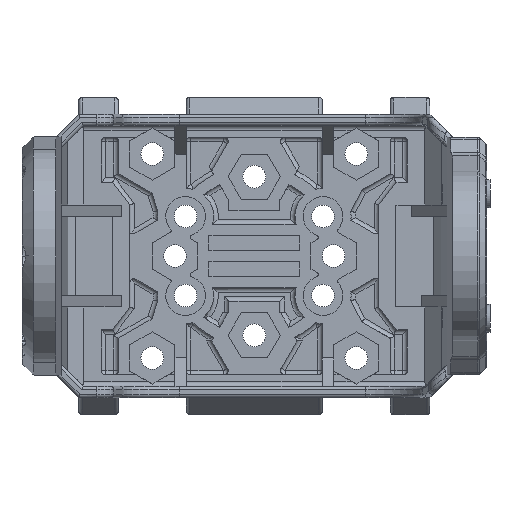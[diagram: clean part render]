
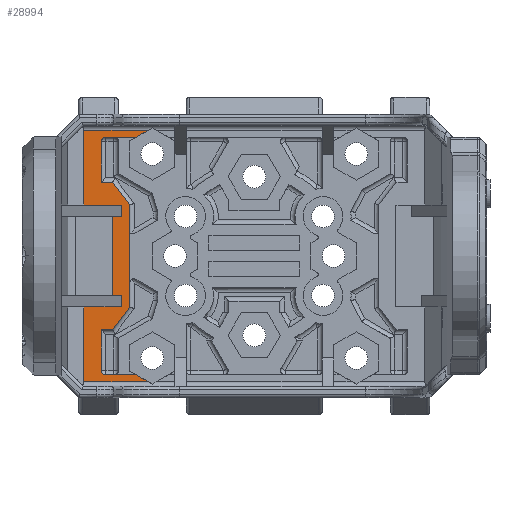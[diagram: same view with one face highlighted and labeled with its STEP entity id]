
A CAD part, front view. The second image highlights one B-rep face of the part: STEP entity #28994.
In plain terms, the highlighted planar face has unit normal (0, -1, 0).
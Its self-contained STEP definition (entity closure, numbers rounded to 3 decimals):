
#1414=DIRECTION('',(-1.,0.,0.));
#1415=VECTOR('',#1414,3.3);
#1416=CARTESIAN_POINT('',(-11.742,65.,-4.5));
#1417=LINE('',#1416,#1415);
#1478=DIRECTION('',(1.,0.,0.));
#1479=VECTOR('',#1478,3.3);
#1480=CARTESIAN_POINT('',(-15.042,65.,4.5));
#1481=LINE('',#1480,#1479);
#1506=CARTESIAN_POINT('',(-15.042,65.,11.1));
#2410=DIRECTION('',(1.,0.,0.));
#2411=VECTOR('',#2410,2.698);
#2412=CARTESIAN_POINT('',(-13.1,65.,10.5));
#2413=LINE('',#2412,#2411);
#2654=DIRECTION('',(-1.,0.,0.));
#2655=VECTOR('',#2654,2.698);
#2656=CARTESIAN_POINT('',(-10.402,65.,-10.5));
#2657=LINE('',#2656,#2655);
#7003=CARTESIAN_POINT('',(-15.042,65.,-11.1));
#7117=DIRECTION('',(0.,0.,-1.));
#7118=VECTOR('',#7117,3.6);
#7119=CARTESIAN_POINT('',(-13.5,65.,-6.5));
#7120=LINE('',#7119,#7118);
#7121=DIRECTION('',(-0.866,0.,0.5));
#7122=VECTOR('',#7121,1.2);
#7123=CARTESIAN_POINT('',(-9.363,65.,-11.1));
#7124=LINE('',#7123,#7122);
#7125=DIRECTION('',(-1.,0.,0.));
#7126=VECTOR('',#7125,5.68);
#7127=CARTESIAN_POINT('',(-9.363,65.,-11.1));
#7128=LINE('',#7127,#7126);
#7129=DIRECTION('',(0.,0.,1.));
#7130=VECTOR('',#7129,6.6);
#7131=CARTESIAN_POINT('',(-15.042,65.,-11.1));
#7132=LINE('',#7131,#7130);
#7133=DIRECTION('',(0.,0.,1.));
#7134=VECTOR('',#7133,1.);
#7135=CARTESIAN_POINT('',(-11.742,65.,-4.5));
#7136=LINE('',#7135,#7134);
#7137=DIRECTION('',(1.,0.,0.));
#7138=VECTOR('',#7137,0.758);
#7139=CARTESIAN_POINT('',(-12.5,65.,-3.5));
#7140=LINE('',#7139,#7138);
#7141=DIRECTION('',(0.,0.,1.));
#7142=VECTOR('',#7141,7.);
#7143=CARTESIAN_POINT('',(-12.5,65.,-3.5));
#7144=LINE('',#7143,#7142);
#7145=DIRECTION('',(1.,0.,0.));
#7146=VECTOR('',#7145,0.758);
#7147=CARTESIAN_POINT('',(-12.5,65.,3.5));
#7148=LINE('',#7147,#7146);
#7149=DIRECTION('',(0.,0.,-1.));
#7150=VECTOR('',#7149,1.);
#7151=CARTESIAN_POINT('',(-11.742,65.,4.5));
#7152=LINE('',#7151,#7150);
#7153=DIRECTION('',(0.,0.,1.));
#7154=VECTOR('',#7153,6.6);
#7155=CARTESIAN_POINT('',(-15.042,65.,4.5));
#7156=LINE('',#7155,#7154);
#7157=DIRECTION('',(1.,0.,0.));
#7158=VECTOR('',#7157,5.68);
#7159=CARTESIAN_POINT('',(-15.042,65.,11.1));
#7160=LINE('',#7159,#7158);
#7161=DIRECTION('',(-0.866,0.,-0.5));
#7162=VECTOR('',#7161,1.2);
#7163=CARTESIAN_POINT('',(-9.363,65.,11.1));
#7164=LINE('',#7163,#7162);
#7165=DIRECTION('',(0.,0.,1.));
#7166=VECTOR('',#7165,3.6);
#7167=CARTESIAN_POINT('',(-13.5,65.,6.5));
#7168=LINE('',#7167,#7166);
#7169=DIRECTION('',(-1.,0.,0.));
#7170=VECTOR('',#7169,1.);
#7171=CARTESIAN_POINT('',(-12.5,65.,6.5));
#7172=LINE('',#7171,#7170);
#7173=DIRECTION('',(-0.6,0.,0.8));
#7174=VECTOR('',#7173,2.5);
#7175=CARTESIAN_POINT('',(-11.,65.,4.5));
#7176=LINE('',#7175,#7174);
#7177=DIRECTION('',(-0.6,0.,-0.8));
#7178=VECTOR('',#7177,2.5);
#7179=CARTESIAN_POINT('',(-11.,65.,-4.5));
#7180=LINE('',#7179,#7178);
#7181=DIRECTION('',(-1.,0.,0.));
#7182=VECTOR('',#7181,1.);
#7183=CARTESIAN_POINT('',(-12.5,65.,-6.5));
#7184=LINE('',#7183,#7182);
#7814=CARTESIAN_POINT('',(-13.1,65.,10.1));
#7815=DIRECTION('',(0.,1.,0.));
#7816=DIRECTION('',(-1.,0.,0.));
#7817=AXIS2_PLACEMENT_3D('',#7814,#7815,#7816);
#7955=DIRECTION('',(0.,0.,1.));
#7956=VECTOR('',#7955,9.);
#7957=CARTESIAN_POINT('',(-11.,65.,-4.5));
#7958=LINE('',#7957,#7956);
#8118=CARTESIAN_POINT('',(-13.1,65.,-10.1));
#8119=DIRECTION('',(0.,1.,0.));
#8120=DIRECTION('',(0.,0.,-1.));
#8121=AXIS2_PLACEMENT_3D('',#8118,#8119,#8120);
#16329=CARTESIAN_POINT('',(-11.,65.,4.5));
#16330=CARTESIAN_POINT('',(-12.5,65.,6.5));
#16331=VERTEX_POINT('',#16329);
#16332=VERTEX_POINT('',#16330);
#16333=CARTESIAN_POINT('',(-13.5,65.,6.5));
#16334=VERTEX_POINT('',#16333);
#17245=CARTESIAN_POINT('',(-12.5,65.,3.5));
#17246=CARTESIAN_POINT('',(-11.742,65.,3.5));
#17247=VERTEX_POINT('',#17245);
#17248=VERTEX_POINT('',#17246);
#17249=CARTESIAN_POINT('',(-11.742,65.,4.5));
#17250=VERTEX_POINT('',#17249);
#17255=CARTESIAN_POINT('',(-15.042,65.,4.5));
#17256=VERTEX_POINT('',#17255);
#17267=CARTESIAN_POINT('',(-11.,65.,-4.5));
#17268=CARTESIAN_POINT('',(-12.5,65.,-6.5));
#17269=VERTEX_POINT('',#17267);
#17270=VERTEX_POINT('',#17268);
#17271=CARTESIAN_POINT('',(-13.5,65.,-6.5));
#17272=VERTEX_POINT('',#17271);
#17281=CARTESIAN_POINT('',(-12.5,65.,-3.5));
#17282=CARTESIAN_POINT('',(-11.742,65.,-3.5));
#17283=VERTEX_POINT('',#17281);
#17284=VERTEX_POINT('',#17282);
#17285=CARTESIAN_POINT('',(-11.742,65.,-4.5));
#17286=VERTEX_POINT('',#17285);
#17293=CARTESIAN_POINT('',(-15.042,65.,-4.5));
#17294=VERTEX_POINT('',#17293);
#17755=CARTESIAN_POINT('',(-10.402,65.,10.5));
#17756=VERTEX_POINT('',#17755);
#17773=CARTESIAN_POINT('',(-10.402,65.,-10.5));
#17774=VERTEX_POINT('',#17773);
#18922=VERTEX_POINT('',#1506);
#18925=CARTESIAN_POINT('',(-9.363,65.,11.1));
#18926=VERTEX_POINT('',#18925);
#18937=VERTEX_POINT('',#7003);
#18938=CARTESIAN_POINT('',(-9.363,65.,-11.1));
#18939=VERTEX_POINT('',#18938);
#19684=CARTESIAN_POINT('',(-13.1,65.,10.5));
#19685=VERTEX_POINT('',#19684);
#19687=CARTESIAN_POINT('',(-13.5,65.,10.1));
#19689=VERTEX_POINT('',#19687);
#19717=CARTESIAN_POINT('',(-13.5,65.,-10.1));
#19719=VERTEX_POINT('',#19717);
#19721=CARTESIAN_POINT('',(-13.1,65.,-10.5));
#19722=VERTEX_POINT('',#19721);
#28948=CARTESIAN_POINT('',(-17.5,65.,-10.5));
#28949=DIRECTION('',(0.,-1.,0.));
#28950=DIRECTION('',(1.,0.,0.));
#28951=AXIS2_PLACEMENT_3D('',#28948,#28949,#28950);
#28952=PLANE('',#28951);
#28954=ORIENTED_EDGE('',*,*,#28953,.T.);
#28956=ORIENTED_EDGE('',*,*,#28955,.F.);
#28957=ORIENTED_EDGE('',*,*,#23593,.F.);
#28959=ORIENTED_EDGE('',*,*,#28958,.F.);
#28960=ORIENTED_EDGE('',*,*,#23680,.T.);
#28961=ORIENTED_EDGE('',*,*,#28817,.T.);
#28962=ORIENTED_EDGE('',*,*,#21810,.F.);
#28964=ORIENTED_EDGE('',*,*,#28963,.T.);
#28966=ORIENTED_EDGE('',*,*,#28965,.F.);
#28968=ORIENTED_EDGE('',*,*,#28967,.T.);
#28970=ORIENTED_EDGE('',*,*,#28969,.T.);
#28971=ORIENTED_EDGE('',*,*,#21917,.F.);
#28972=ORIENTED_EDGE('',*,*,#21933,.F.);
#28973=ORIENTED_EDGE('',*,*,#21966,.T.);
#28974=ORIENTED_EDGE('',*,*,#21990,.T.);
#28976=ORIENTED_EDGE('',*,*,#28975,.T.);
#28977=ORIENTED_EDGE('',*,*,#23216,.F.);
#28979=ORIENTED_EDGE('',*,*,#28978,.F.);
#28981=ORIENTED_EDGE('',*,*,#28980,.F.);
#28983=ORIENTED_EDGE('',*,*,#28982,.F.);
#28985=ORIENTED_EDGE('',*,*,#28984,.F.);
#28987=ORIENTED_EDGE('',*,*,#28986,.F.);
#28989=ORIENTED_EDGE('',*,*,#28988,.T.);
#28991=ORIENTED_EDGE('',*,*,#28990,.T.);
#28992=EDGE_LOOP('',(#28954,#28956,#28957,#28959,#28960,#28961,#28962,#28964,
#28966,#28968,#28970,#28971,#28972,#28973,#28974,#28976,#28977,#28979,#28981,
#28983,#28985,#28987,#28989,#28991));
#28993=FACE_OUTER_BOUND('',#28992,.F.);
#28994=ADVANCED_FACE('',(#28993),#28952,.T.);
#7818=CIRCLE('',#7817,0.4);
#8122=CIRCLE('',#8121,0.4);
#21810=EDGE_CURVE('',#17286,#17294,#1417,.T.);
#21917=EDGE_CURVE('',#17250,#17248,#7152,.T.);
#21933=EDGE_CURVE('',#17256,#17250,#1481,.T.);
#21966=EDGE_CURVE('',#17256,#18922,#7156,.T.);
#21990=EDGE_CURVE('',#18922,#18926,#7160,.T.);
#23216=EDGE_CURVE('',#19685,#17756,#2413,.T.);
#23593=EDGE_CURVE('',#17774,#19722,#2657,.T.);
#23680=EDGE_CURVE('',#18939,#18937,#7128,.T.);
#28817=EDGE_CURVE('',#18937,#17294,#7132,.T.);
#28953=EDGE_CURVE('',#17272,#19719,#7120,.T.);
#28955=EDGE_CURVE('',#19722,#19719,#8122,.T.);
#28958=EDGE_CURVE('',#18939,#17774,#7124,.T.);
#28963=EDGE_CURVE('',#17286,#17284,#7136,.T.);
#28965=EDGE_CURVE('',#17283,#17284,#7140,.T.);
#28967=EDGE_CURVE('',#17283,#17247,#7144,.T.);
#28969=EDGE_CURVE('',#17247,#17248,#7148,.T.);
#28975=EDGE_CURVE('',#18926,#17756,#7164,.T.);
#28978=EDGE_CURVE('',#19689,#19685,#7818,.T.);
#28980=EDGE_CURVE('',#16334,#19689,#7168,.T.);
#28982=EDGE_CURVE('',#16332,#16334,#7172,.T.);
#28984=EDGE_CURVE('',#16331,#16332,#7176,.T.);
#28986=EDGE_CURVE('',#17269,#16331,#7958,.T.);
#28988=EDGE_CURVE('',#17269,#17270,#7180,.T.);
#28990=EDGE_CURVE('',#17270,#17272,#7184,.T.);
